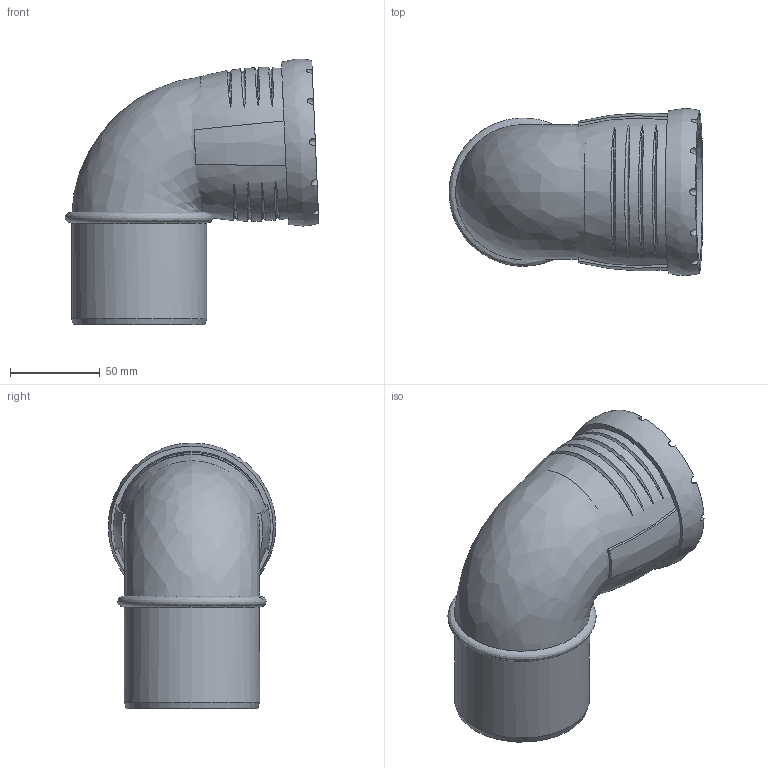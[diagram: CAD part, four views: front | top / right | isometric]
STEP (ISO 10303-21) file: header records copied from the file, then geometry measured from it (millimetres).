
FILE_DESCRIPTION(/* description */ (''),/* implementation_level */ '2;1');
FILE_NAME(/* name */ 'H:\Geberit-Teile\Export\Bogen_TEST\stp\393324.stp',/* time_stamp */ '2017-02-14T10:08:18+01:00',/* author */ ('seihe2'),/* organization */ (''),/* preprocessor_version */ 'ST-DEVELOPER v15.2',/* originating_system */ 'Autodesk Inventor 2014',/* authorisation */ '');
FILE_SCHEMA (('AUTOMOTIVE_DESIGN { 1 0 10303 214 3 1 1 }'));
Length unit declared in the file: millimetre
Products named in the file (1): 393324
Bounding box: 141.09 x 92.99 x 147.88 mm (x, y, z)
Volume: 422246.5 mm3; surface area: 97110.1 mm2
Topology: 2 solids, 2 shells, 55 faces, 151 edges, 105 vertices
Faces by surface type: bspline 24, cylinder 19, plane 10, cone 2
Full cylindrical faces by diameter (mm): 56 x1, 67.6 x1, 75.2 x2, 75.9 x1, 76.2 x1, 85 x1
Entity records: 4464 total; most frequent: CARTESIAN_POINT 3132, ORIENTED_EDGE 288, DIRECTION 206, EDGE_CURVE 142, VERTEX_POINT 105, AXIS2_PLACEMENT_3D 101, EDGE_LOOP 80, B_SPLINE_CURVE_WITH_KNOTS 67
